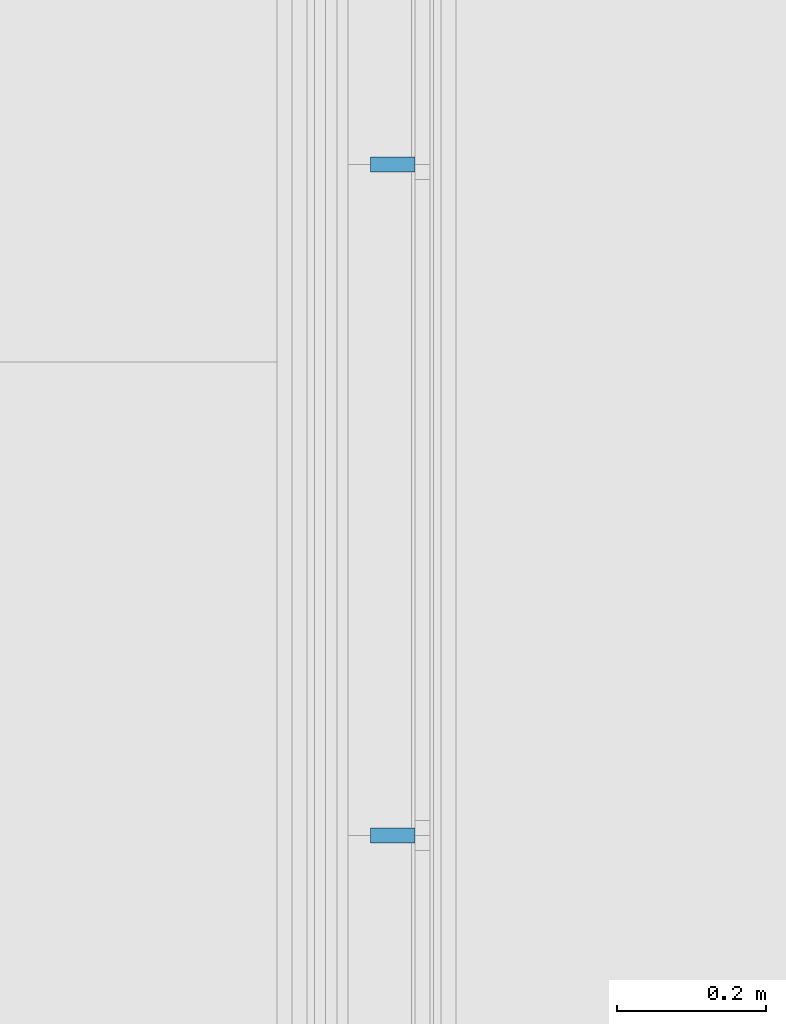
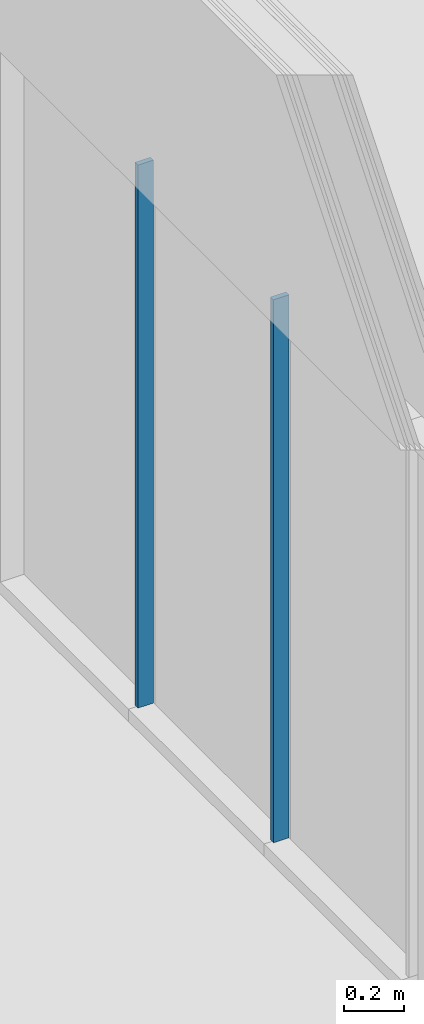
# One storey, part 9 of 139: 2 members, 1 element without a shape of its own.
"""IFC2X3 building model written with IfcOpenShell, lengths in millimetres."""

from ifc_helpers import new_model, entity, si_unit, converted_unit, derived_unit, money_unit, direction, frame, origin_with_axes, place, context, subcontext, project, spatial, faceted_brep, source, transform, mapped, material, type_object, element, aggregate, save


model = new_model("IFC2X3")

# Units and contexts
model_context = context("Model", 3, precision=0.01, world=origin_with_axes(), true_north=direction((0.0, 1.0)))
body_context = subcontext(model_context, "Body", "Model", "MODEL_VIEW")
ifc_project = project(units=[si_unit("LENGTHUNIT", "METRE", prefix="MILLI"), si_unit("AREAUNIT", "SQUARE_METRE"), si_unit("VOLUMEUNIT", "CUBIC_METRE"), converted_unit("PLANEANGLEUNIT", "DEGREE", entity("IfcPlaneAngleMeasure", 0.0174532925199), si_unit("PLANEANGLEUNIT", "RADIAN"), dimensions=[0, 0, 0, 0, 0, 0, 0]), money_unit("EUR"), converted_unit("TIMEUNIT", "Year", entity("IfcTimeMeasure", 31556926.0), si_unit("TIMEUNIT", "SECOND"), dimensions=[0, 0, 1, 0, 0, 0, 0]), si_unit("MASSUNIT", "GRAM", prefix="KILO"), si_unit("THERMODYNAMICTEMPERATUREUNIT", "DEGREE_CELSIUS"), si_unit("LUMINOUSINTENSITYUNIT", "LUMEN"), si_unit("ENERGYUNIT", "JOULE", prefix="MEGA"), derived_unit("THERMALCONDUCTANCEUNIT", [(si_unit("POWERUNIT", "WATT"), 1), (si_unit("LENGTHUNIT", "METRE"), -1), (si_unit("THERMODYNAMICTEMPERATUREUNIT", "KELVIN"), -1)]), derived_unit("SPECIFICHEATCAPACITYUNIT", [(si_unit("ENERGYUNIT", "JOULE"), 1), (si_unit("MASSUNIT", "GRAM", prefix="KILO"), -1), (si_unit("THERMODYNAMICTEMPERATUREUNIT", "KELVIN"), -1)]), derived_unit("MASSDENSITYUNIT", [(si_unit("MASSUNIT", "GRAM", prefix="KILO"), 1), (si_unit("VOLUMEUNIT", "CUBIC_METRE"), -1)])], contexts=[model_context])

# Site, building, storey
site_placement = place(None, origin_with_axes())
site = spatial("IfcSite", under=ifc_project, at=site_placement, Name="Kolde pst 67a", CompositionType="ELEMENT")
building_placement = place(site_placement, origin_with_axes())
building = spatial("IfcBuilding", under=site, at=building_placement, Name="Riigigümnaasium", CompositionType="ELEMENT")
storey_placement = place(building_placement, frame((0.0, 0.0, 4600.0), z_axis=(0.0, 0.0, 1.0), x_axis=(1.0, 0.0, 0.0)))
storey = spatial("IfcBuildingStorey", under=building, at=storey_placement, Name="2. korrus", CompositionType="ELEMENT", Elevation=4600.0)

# Curtain wall, members
curtain_wall_type = type_object("IfcCurtainWallType", Name="Curtain Wall Type", PredefinedType="NOTDEFINED")
curtain_wall_placement = place(storey_placement, frame((48304.9854607, 45219.9999598, 0.0), z_axis=(0.0, 0.0, 1.0), x_axis=(1.0, 0.0, 0.0)))
curtain_wall = element("IfcCurtainWall", 1, at=curtain_wall_placement, inside=storey, type_object=curtain_wall_type, Name="KLAASSEIN")
ifc_material = material(Name="_KANDETARIND - puitkarkass")
member_type = type_object("IfcMemberType", Name="Mullion Frame 20 x 70", PredefinedType="MEMBER")
shared_shape = source(origin_with_axes(), body_context, "Body", "Brep", [
    faceted_brep([(0.0, -10.0, 50.0), (-10.0, -10.0, 50.0), (-10.0, -10.0, 2250.00008941), (0.0, -10.0, 2250.00008941), (10.0, -10.0, 2250.00008941), (10.0, -10.0, 50.0), (10.0, -70.0, 50.0), (-10.0, -70.0, 50.0), (-10.0, -70.0, 2250.00008941), (10.0, -70.0, 2250.00008941)], [[[0, 1, 2, 3, 4, 5]], [[5, 6, 7, 1, 0]], [[2, 1, 7, 8]], [[3, 2, 8, 9, 4]], [[4, 9, 6, 5]], [[9, 8, 7, 6]]]),
])
member_1_placement = place(curtain_wall_placement, frame((0.0, -450.0, 0.0), z_axis=(0.0, 0.0, 1.0), x_axis=(0.0, 1.0, 0.0)))
member_1 = element("IfcMember", 2, at=member_1_placement, type_object=member_type, material=ifc_material, Name="RF RAAM VERT-306", ObjectType="MEMBER", context=body_context, shape_type="MappedRepresentation", body=[
    mapped(shared_shape, transform((0.0, 0.0, 0.0), x_axis=(-1.0, 0.0, 0.0), y_axis=(0.0, -1.0, 0.0), z_axis=(0.0, 0.0, 1.0))),
])
member_2_placement = place(curtain_wall_placement, frame((0.0, -1350.0, 0.0), z_axis=(0.0, 0.0, 1.0), x_axis=(0.0, 1.0, 0.0)))
member_2 = element("IfcMember", 3, at=member_2_placement, type_object=member_type, material=ifc_material, Name="RF RAAM VERT-307", ObjectType="MEMBER", context=body_context, shape_type="MappedRepresentation", body=[
    mapped(shared_shape, transform((0.0, 0.0, 0.0), x_axis=(-1.0, 0.0, 0.0), y_axis=(0.0, -1.0, 0.0), z_axis=(0.0, 0.0, 1.0))),
])
aggregate(curtain_wall, [member_1, member_2])

save(model, "model.ifc")
